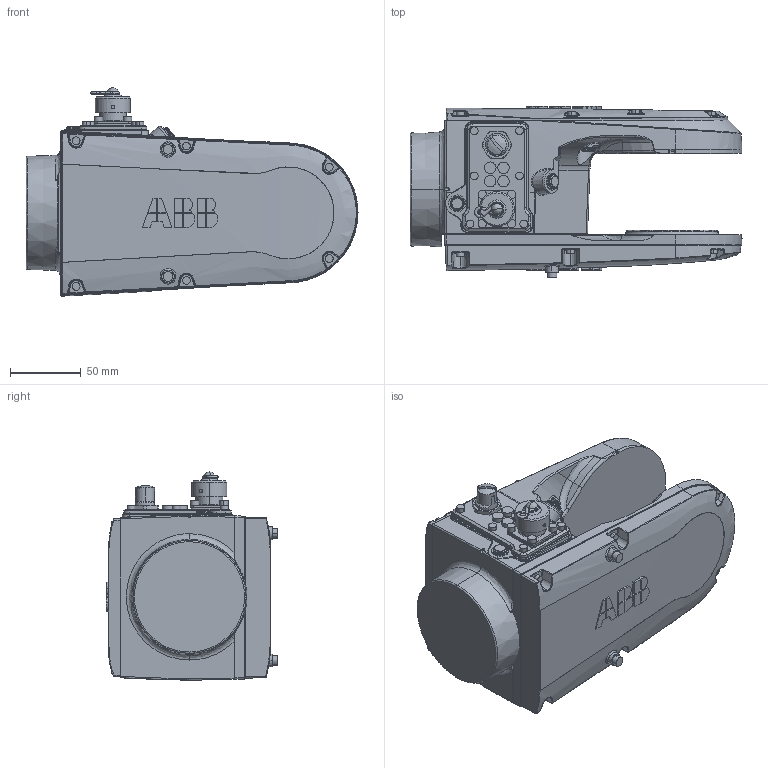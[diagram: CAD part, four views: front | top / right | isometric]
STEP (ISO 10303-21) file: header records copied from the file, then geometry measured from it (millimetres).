
FILE_DESCRIPTION (( 'STEP AP214' ), '1' );
FILE_NAME ('IRB1200H_7-705-90_IRC5_Link4_rev0.step', '2022-01-17T08:45:25', ( '' ), ( '' ), 'SwSTEP 2.0', 'SolidWorks 2020', '' );
FILE_SCHEMA (( 'AUTOMOTIVE_DESIGN' ));
Length unit declared in the file: millimetre
Products named in the file (1): IRB1200H_7-705-90_IRC5_Link4_rev0
Bounding box: 234.97 x 121.5 x 147.44 mm (x, y, z)
Volume: 1791027.6 mm3; surface area: 128301.9 mm2
Topology: 1 solids, 10 shells, 1132 faces, 2736 edges, 1677 vertices
Faces by surface type: bspline 416, plane 343, cylinder 290, cone 79, torus 3, sphere 1
Entity records: 55531 total; most frequent: CARTESIAN_POINT 30601, ORIENTED_EDGE 5430, DIRECTION 4116, EDGE_CURVE 2715, VERTEX_POINT 1677, AXIS2_PLACEMENT_3D 1598, EDGE_LOOP 1226, FACE_OUTER_BOUND 1132
